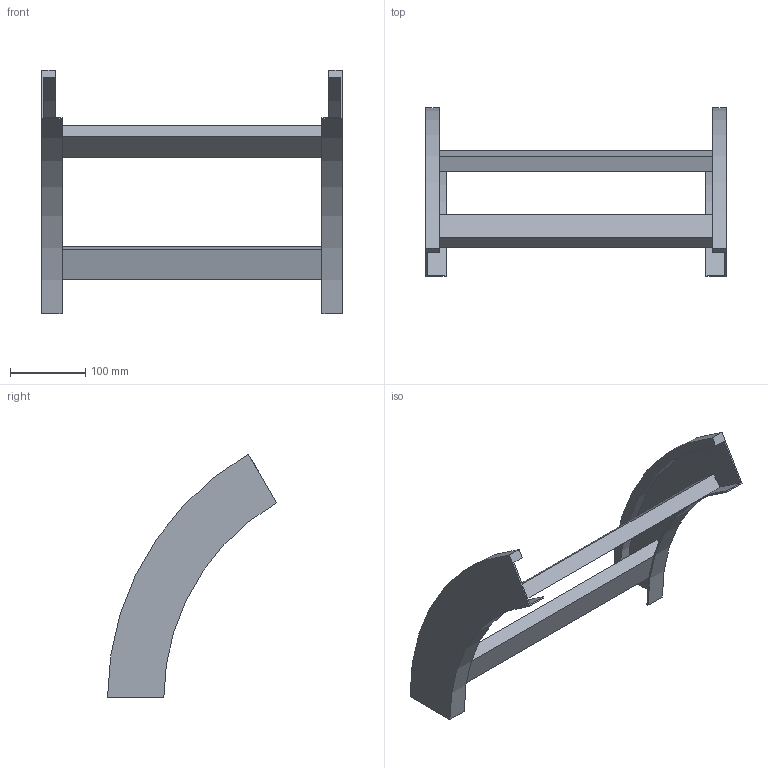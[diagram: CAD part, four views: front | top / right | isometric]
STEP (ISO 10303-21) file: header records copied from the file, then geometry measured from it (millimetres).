
FILE_DESCRIPTION (( 'STEP AP214' ), '1' );
FILE_NAME ('B2_41B3C400.step', '2025-02-21T15:00:35', ( '' ), ( '' ), 'SwSTEP 2.0', 'SolidWorks 2023', '' );
FILE_SCHEMA (( 'AUTOMOTIVE_DESIGN' ));
Length unit declared in the file: millimetre
Products named in the file (3): B2_LONGH.DISCESA_60°_H75_R300; B2_41B3C400; TRAVERSINO_400
Assembly tree (4 placements, depth 2):
  B2_41B3C400
    B2_LONGH.DISCESA_60°_H75_R300  x2
    TRAVERSINO_400  x2
Bounding box: 400 x 225 x 324.76 mm (x, y, z)
Volume: 927453.1 mm3; surface area: 265747.4 mm2
Topology: 4 solids, 4 shells, 32 faces, 72 edges, 48 vertices
Faces by surface type: plane 24, cylinder 8
Entity records: 552 total; most frequent: DIRECTION 90, CARTESIAN_POINT 83, ORIENTED_EDGE 72, EDGE_CURVE 36, AXIS2_PLACEMENT_3D 31, VECTOR 28, LINE 28, VERTEX_POINT 24
